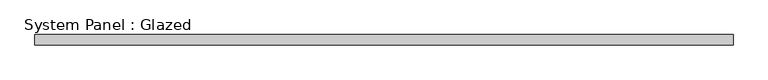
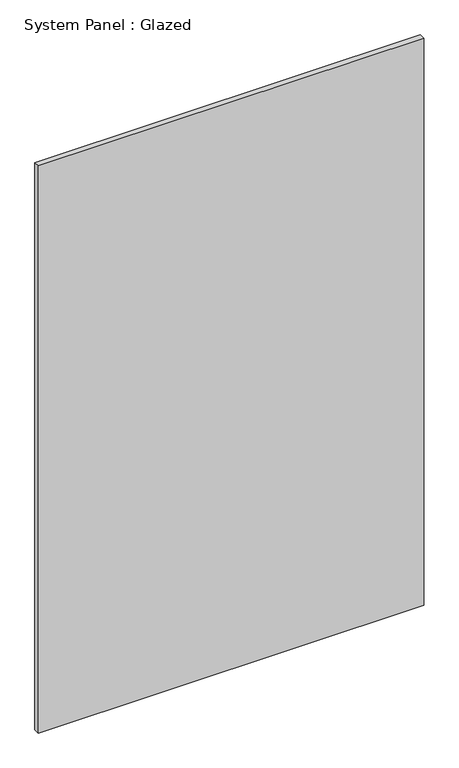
"""IFC4 building model written with IfcOpenShell, lengths in millimetres: plate geometry, System Panel : Glazed."""

from ifc_helpers import new_model, si_unit, origin, origin_with_axes, place, context, project, spatial, polyline, outline, extrude, source, transform, mapped, element, save


def system_panel_glazed_709e4807(model_context):
    return source(origin(), model_context, "Body", "SweptSolid", [
        extrude(outline(polyline([(857.1642504, 19.05), (-857.1642504, 19.05), (-857.1642504, 44.45), (857.1642504, 44.45), (857.1642504, 19.05)])), origin_with_axes(), (0.0, 0.0, 1.0), 2666.6267362),
    ])


if __name__ == "__main__":
    model = new_model("IFC4")
    model_context = context("Model", 3, world=origin())
    ifc_project = project(units=[si_unit("LENGTHUNIT", "METRE", prefix="MILLI")], contexts=[model_context])
    site = spatial("IfcSite", under=ifc_project)
    building = spatial("IfcBuilding", under=site)
    placement = place(None, origin())
    system_panel_glazed_shape = system_panel_glazed_709e4807(model_context)
    element("IfcPlate", 1, ObjectType="System Panel : Glazed", at=placement, inside=building, context=model_context, shape_type="MappedRepresentation", body=[
        mapped(system_panel_glazed_shape, transform((0.0, 0.0, 0.0), x_axis=(1.0, 0.0, 0.0), y_axis=(0.0, 1.0, 0.0), z_axis=(0.0, 0.0, 1.0))),
    ])
    save(model, "model.ifc")
